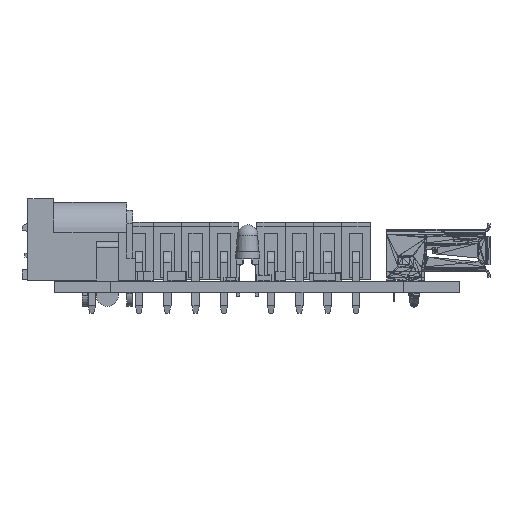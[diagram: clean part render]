
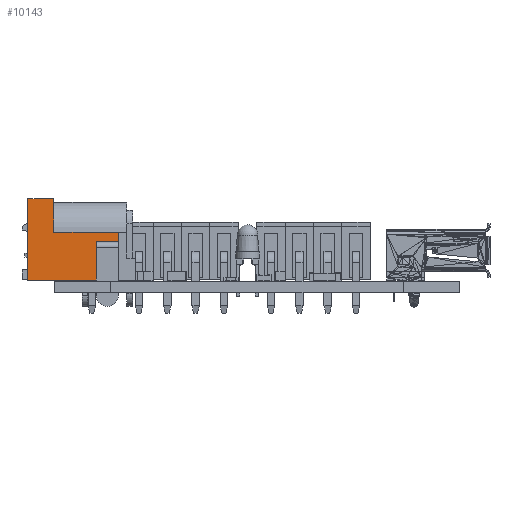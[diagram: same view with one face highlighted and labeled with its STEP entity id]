
A CAD part, left-side view. The second image highlights one B-rep face of the part: STEP entity #10143.
In plain terms, the highlighted planar face has unit normal (-1, 0, 0) as drawn and (0, -1, 0) by its records, which use the part's own axes.
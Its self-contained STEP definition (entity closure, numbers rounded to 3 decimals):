
#10096 = EDGE_CURVE('',#10097,#10099,#10101,.T.);
#10097 = VERTEX_POINT('',#10098);
#10098 = CARTESIAN_POINT('',(-10.7,-2.8,0.));
#10099 = VERTEX_POINT('',#10100);
#10100 = CARTESIAN_POINT('',(-10.7,-2.8,11.));
#10101 = LINE('',#10102,#10103);
#10102 = CARTESIAN_POINT('',(-10.7,-2.8,0.));
#10103 = VECTOR('',#10104,1.);
#10104 = DIRECTION('',(0.,0.,1.));
#10143 = ADVANCED_FACE('',(#10144),#10217,.F.);
#10144 = FACE_BOUND('',#10145,.F.);
#10145 = EDGE_LOOP('',(#10146,#10156,#10164,#10172,#10180,#10188,#10194,
    #10195,#10203,#10211));
#10146 = ORIENTED_EDGE('',*,*,#10147,.F.);
#10147 = EDGE_CURVE('',#10148,#10150,#10152,.T.);
#10148 = VERTEX_POINT('',#10149);
#10149 = CARTESIAN_POINT('',(1.51,-2.8,0.));
#10150 = VERTEX_POINT('',#10151);
#10151 = CARTESIAN_POINT('',(1.51,-2.8,6.5));
#10152 = LINE('',#10153,#10154);
#10153 = CARTESIAN_POINT('',(1.51,-2.8,0.));
#10154 = VECTOR('',#10155,1.);
#10155 = DIRECTION('',(0.,0.,1.));
#10156 = ORIENTED_EDGE('',*,*,#10157,.F.);
#10157 = EDGE_CURVE('',#10158,#10148,#10160,.T.);
#10158 = VERTEX_POINT('',#10159);
#10159 = CARTESIAN_POINT('',(1.5,-2.8,0.));
#10160 = LINE('',#10161,#10162);
#10161 = CARTESIAN_POINT('',(-10.7,-2.8,0.));
#10162 = VECTOR('',#10163,1.);
#10163 = DIRECTION('',(1.,0.,0.));
#10164 = ORIENTED_EDGE('',*,*,#10165,.F.);
#10165 = EDGE_CURVE('',#10166,#10158,#10168,.T.);
#10166 = VERTEX_POINT('',#10167);
#10167 = CARTESIAN_POINT('',(1.5,-2.8,5.2));
#10168 = LINE('',#10169,#10170);
#10169 = CARTESIAN_POINT('',(1.5,-2.8,5.2));
#10170 = VECTOR('',#10171,1.);
#10171 = DIRECTION('',(0.,0.,-1.));
#10172 = ORIENTED_EDGE('',*,*,#10173,.F.);
#10173 = EDGE_CURVE('',#10174,#10166,#10176,.T.);
#10174 = VERTEX_POINT('',#10175);
#10175 = CARTESIAN_POINT('',(-1.5,-2.8,5.2));
#10176 = LINE('',#10177,#10178);
#10177 = CARTESIAN_POINT('',(-1.5,-2.8,5.2));
#10178 = VECTOR('',#10179,1.);
#10179 = DIRECTION('',(1.,0.,0.));
#10180 = ORIENTED_EDGE('',*,*,#10181,.T.);
#10181 = EDGE_CURVE('',#10174,#10182,#10184,.T.);
#10182 = VERTEX_POINT('',#10183);
#10183 = CARTESIAN_POINT('',(-1.5,-2.8,0.));
#10184 = LINE('',#10185,#10186);
#10185 = CARTESIAN_POINT('',(-1.5,-2.8,5.2));
#10186 = VECTOR('',#10187,1.);
#10187 = DIRECTION('',(0.,0.,-1.));
#10188 = ORIENTED_EDGE('',*,*,#10189,.F.);
#10189 = EDGE_CURVE('',#10097,#10182,#10190,.T.);
#10190 = LINE('',#10191,#10192);
#10191 = CARTESIAN_POINT('',(-10.7,-2.8,0.));
#10192 = VECTOR('',#10193,1.);
#10193 = DIRECTION('',(1.,0.,0.));
#10194 = ORIENTED_EDGE('',*,*,#10096,.T.);
#10195 = ORIENTED_EDGE('',*,*,#10196,.T.);
#10196 = EDGE_CURVE('',#10099,#10197,#10199,.T.);
#10197 = VERTEX_POINT('',#10198);
#10198 = CARTESIAN_POINT('',(-7.2,-2.8,11.));
#10199 = LINE('',#10200,#10201);
#10200 = CARTESIAN_POINT('',(-10.7,-2.8,11.));
#10201 = VECTOR('',#10202,1.);
#10202 = DIRECTION('',(1.,0.,0.));
#10203 = ORIENTED_EDGE('',*,*,#10204,.F.);
#10204 = EDGE_CURVE('',#10205,#10197,#10207,.T.);
#10205 = VERTEX_POINT('',#10206);
#10206 = CARTESIAN_POINT('',(-7.2,-2.8,6.5));
#10207 = LINE('',#10208,#10209);
#10208 = CARTESIAN_POINT('',(-7.2,-2.8,6.5));
#10209 = VECTOR('',#10210,1.);
#10210 = DIRECTION('',(0.,0.,1.));
#10211 = ORIENTED_EDGE('',*,*,#10212,.F.);
#10212 = EDGE_CURVE('',#10150,#10205,#10213,.T.);
#10213 = LINE('',#10214,#10215);
#10214 = CARTESIAN_POINT('',(3.8,-2.8,6.5));
#10215 = VECTOR('',#10216,1.);
#10216 = DIRECTION('',(-1.,0.,0.));
#10217 = PLANE('',#10218);
#10218 = AXIS2_PLACEMENT_3D('',#10219,#10220,#10221);
#10219 = CARTESIAN_POINT('',(-10.7,-2.8,0.));
#10220 = DIRECTION('',(0.,1.,0.));
#10221 = DIRECTION('',(0.,0.,1.));
